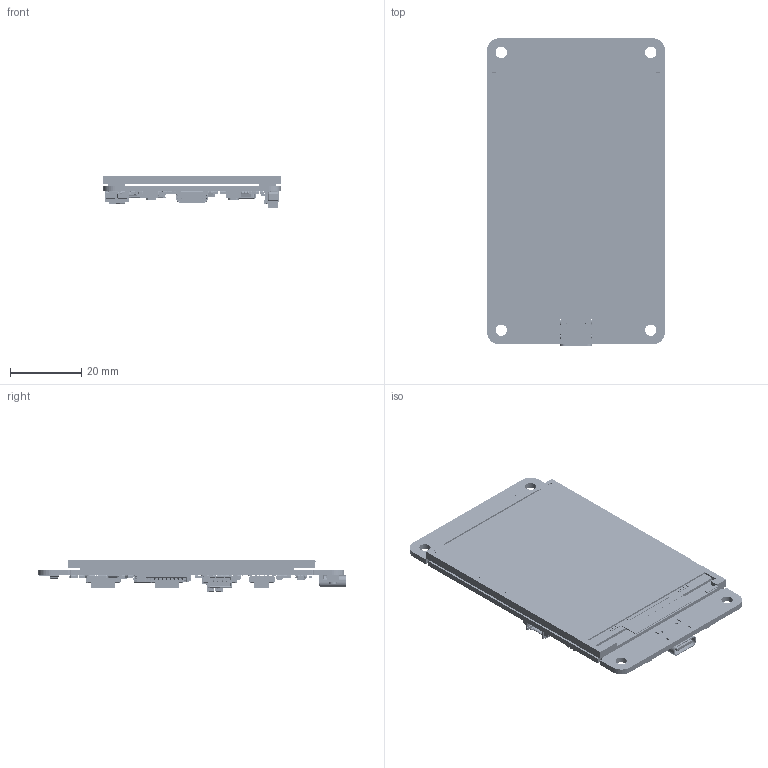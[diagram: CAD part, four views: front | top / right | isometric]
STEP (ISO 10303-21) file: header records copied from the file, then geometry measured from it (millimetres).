
FILE_DESCRIPTION(('Open CASCADE Model'),'2;1');
FILE_NAME('Open CASCADE Shape Model','2025-06-10T17:28:39',('Author'),( 'Open CASCADE'),'Open CASCADE STEP processor 6.8','Open CASCADE 6.8' ,'Unknown');
FILE_SCHEMA(('AUTOMOTIVE_DESIGN { 1 0 10303 214 1 1 1 1 }'));
Length unit declared in the file: millimetre
Products named in the file (252): PCB; Board; Open CASCADE STEP translator 6.8 4.1.1; Open CASCADE STEP translator 6.8 4.1.1.1; C7; C_0603; LOGO?; C8; 5957123536; C9; 5957123296; C10; C2; C6; C26; R9; 5957121136; R6; 5957122096; R7; R10; R19; R20; SD_CARD1; User_Library-MEM2055-00-190-01-A_revG; C4; C5; R44; 5957122816; R16; C15; C16; C11; C20; C21; C22; C23; C50; Q3; 5957120896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
Assembly tree (374 placements, depth 4):
  PCB
    Board
      Open CASCADE STEP translator 6.8 4.1.1
        Open CASCADE STEP translator 6.8 4.1.1.1
    C7
      C_0603
        LOGO?
        C_0603
    C8
      5957123536
    C9
      5957123296
    C10
      C_0603
        LOGO?
        C_0603
    C2
      C_0603
        LOGO?
        C_0603
    C6
      C_0603
        LOGO?
        C_0603
    C26
      C_0603
        LOGO?
        C_0603
    R9
      5957121136
    R6
      5957122096
    R7
      5957122096
    R10
      5957121136
    R19
      5957121136
    R20
      5957121136
    SD_CARD1
      User_Library-MEM2055-00-190-01-A_revG
    C4
      C_0603
        LOGO?
        C_0603
    C5
      5957123536
    R44
      5957122816
    R16
      5957122816
    C15
      C_0603
        LOGO?
        C_0603
    C16
      C_0603
        LOGO?
        C_0603
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Bounding box: 50 x 86.37 x 9.1 mm (x, y, z)
Volume: 15318.2 mm3; surface area: 25386.8 mm2
Topology: 1208 solids, 2124 shells, 22802 faces, 58641 edges, 39390 vertices
Faces by surface type: plane 11829, bspline 6768, cylinder 3587, sphere 560, torus 51, cone 7
Full cylindrical faces by diameter (mm): 0.6 x1, 1 x2, 3.2 x4
Entity records: 286731 total; most frequent: CARTESIAN_POINT 101495, ORIENTED_EDGE 30772, DIRECTION 27899, EDGE_CURVE 17938, VERTEX_POINT 13416, LINE 13179, VECTOR 13179, AXIS2_PLACEMENT_3D 7360
